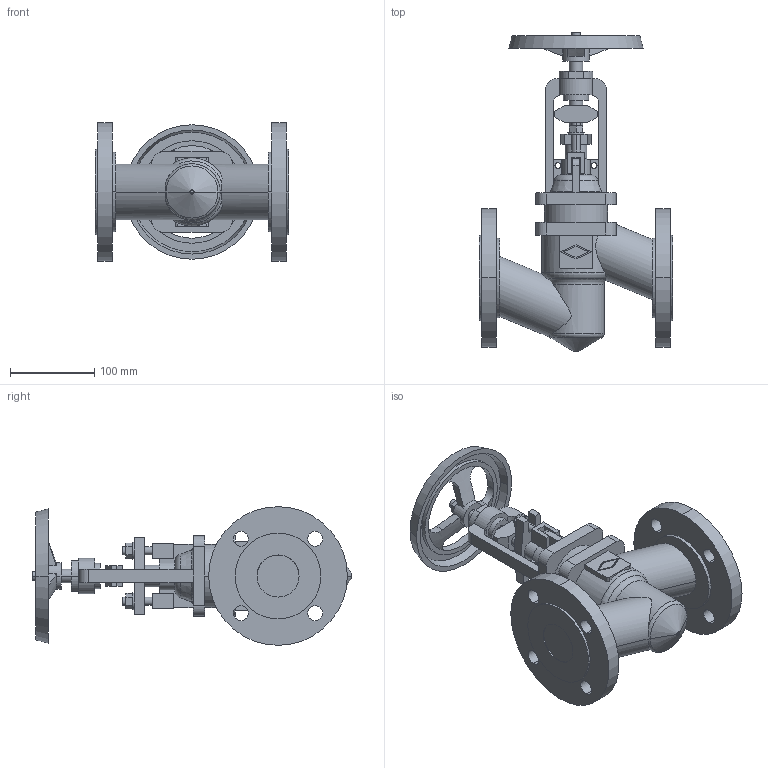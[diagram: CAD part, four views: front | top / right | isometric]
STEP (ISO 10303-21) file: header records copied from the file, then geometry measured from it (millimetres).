
FILE_DESCRIPTION(('OneSpaceDesigner STEP Export'),'2;1');
FILE_NAME('c000004289.stp','2010-05-05T10:29:25',(''),(''),'OneSpace Designer STEP processor for AP214 (Solid Model)','OneSpace Modeling 15.50B 03-Nov-2007 (C) CoCreate Software GmbH','');
FILE_SCHEMA(('AUTOMOTIVE_DESIGN { 1 0 10303 214 1 1 1 1 }'));
Length unit declared in the file: millimetre
Products named in the file (1): 1
Bounding box: 230 x 380.7 x 165 mm (x, y, z)
Volume: 2495815.6 mm3; surface area: 289329.4 mm2
Topology: 1 solids, 1 shells, 308 faces, 808 edges, 530 vertices
Faces by surface type: plane 153, cylinder 115, cone 24, torus 14, sphere 2
Entity records: 12103 total; most frequent: CARTESIAN_POINT 2455, ORIENTED_EDGE 1616, DIRECTION 1325, EDGE_CURVE 808, VERTEX_POINT 530, VECTOR 443, LINE 443, AXIS2_PLACEMENT_3D 441
